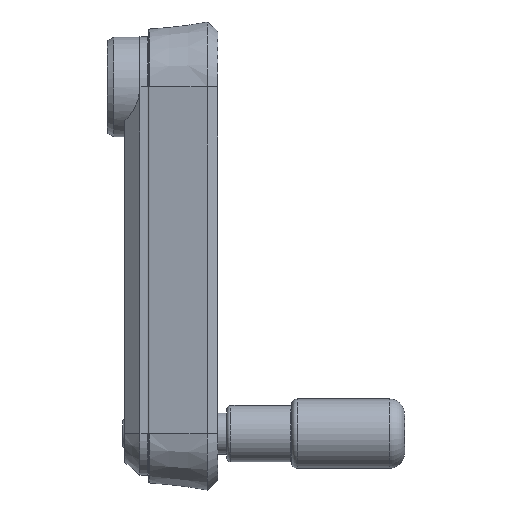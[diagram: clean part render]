
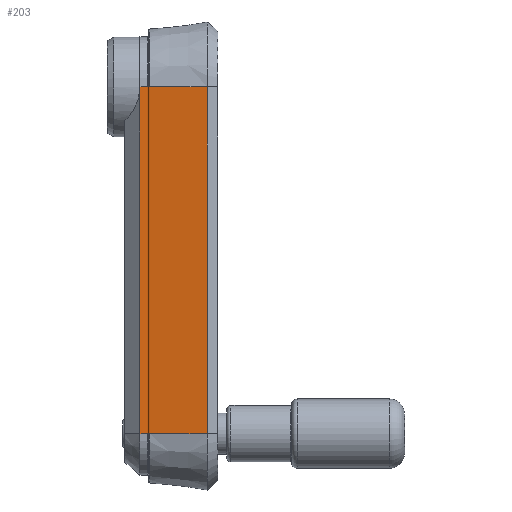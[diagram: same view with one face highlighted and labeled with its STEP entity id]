
A CAD part, top view. The second image highlights one B-rep face of the part: STEP entity #203.
In plain terms, the highlighted free-form (B-spline) face has degree [3, 1] with [12, 2] control points.
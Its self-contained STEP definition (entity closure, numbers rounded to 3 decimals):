
#203 = ADVANCED_FACE( '', ( #341 ), #342, .T. );
#341 = FACE_OUTER_BOUND( '', #588, .T. );
#342 = B_SPLINE_SURFACE_WITH_KNOTS( '', 3, 1, ( ( #589, #590 ), ( #591, #592 ), ( #593, #594 ), ( #595, #596 ), ( #597, #598 ), ( #599, #600 ), ( #601, #602 ), ( #603, #604 ), ( #605, #606 ), ( #607, #608 ), ( #609, #610 ), ( #611, #612 ) ), .UNSPECIFIED., .F., .F., .F., ( 4, 2, 2, 2, 2, 4 ), ( 2, 2 ), ( 0., 0.099, 0.127, 0.197, 0.222, 1. ), ( 0., 1. ), .UNSPECIFIED. );
#588 = EDGE_LOOP( '', ( #1005, #1006, #1007, #1008, #1009, #1010, #1011, #1012, #1013, #1014, #1015, #1016 ) );
#589 = CARTESIAN_POINT( '', ( -1.5, -80., 9.565 ) );
#590 = CARTESIAN_POINT( '', ( -1.5, 0., 11.594 ) );
#591 = CARTESIAN_POINT( '', ( -0.933, -80., 9.565 ) );
#592 = CARTESIAN_POINT( '', ( -0.933, 0., 11.594 ) );
#593 = CARTESIAN_POINT( '', ( -0.367, -80., 9.565 ) );
#594 = CARTESIAN_POINT( '', ( -0.367, 0., 11.594 ) );
#595 = CARTESIAN_POINT( '', ( 0.357, -80., 9.565 ) );
#596 = CARTESIAN_POINT( '', ( 0.357, 0., 11.594 ) );
#597 = CARTESIAN_POINT( '', ( 0.5, -80., 9.707 ) );
#598 = CARTESIAN_POINT( '', ( 0.5, 0., 11.738 ) );
#599 = CARTESIAN_POINT( '', ( 0.5, -80., 10.267 ) );
#600 = CARTESIAN_POINT( '', ( 0.5, 0., 12.291 ) );
#601 = CARTESIAN_POINT( '', ( 0.5, -80., 10.676 ) );
#602 = CARTESIAN_POINT( '', ( 0.5, 0., 12.681 ) );
#603 = CARTESIAN_POINT( '', ( 0.5, -80., 11.223 ) );
#604 = CARTESIAN_POINT( '', ( 0.5, 0., 13.222 ) );
#605 = CARTESIAN_POINT( '', ( 0.62, -80., 11.358 ) );
#606 = CARTESIAN_POINT( '', ( 0.62, 0., 13.358 ) );
#607 = CARTESIAN_POINT( '', ( 5.174, -80., 11.917 ) );
#608 = CARTESIAN_POINT( '', ( 5.174, 0., 13.917 ) );
#609 = CARTESIAN_POINT( '', ( 9.585, -80., 12.458 ) );
#610 = CARTESIAN_POINT( '', ( 9.584, 0., 14.458 ) );
#611 = CARTESIAN_POINT( '', ( 13.996, -80., 13. ) );
#612 = CARTESIAN_POINT( '', ( 13.995, 0., 15. ) );
#1005 = ORIENTED_EDGE( '', *, *, #1545, .T. );
#1006 = ORIENTED_EDGE( '', *, *, #1546, .F. );
#1007 = ORIENTED_EDGE( '', *, *, #1547, .F. );
#1008 = ORIENTED_EDGE( '', *, *, #1532, .F. );
#1009 = ORIENTED_EDGE( '', *, *, #1548, .F. );
#1010 = ORIENTED_EDGE( '', *, *, #1528, .F. );
#1011 = ORIENTED_EDGE( '', *, *, #1549, .F. );
#1012 = ORIENTED_EDGE( '', *, *, #1550, .F. );
#1013 = ORIENTED_EDGE( '', *, *, #1551, .F. );
#1014 = ORIENTED_EDGE( '', *, *, #1552, .F. );
#1015 = ORIENTED_EDGE( '', *, *, #1553, .T. );
#1016 = ORIENTED_EDGE( '', *, *, #1554, .F. );
#1528 = EDGE_CURVE( '', #1806, #1809, #1810, .T. );
#1532 = EDGE_CURVE( '', #1814, #1817, #1818, .T. );
#1545 = EDGE_CURVE( '', #1840, #1841, #1842, .T. );
#1546 = EDGE_CURVE( '', #1843, #1841, #1844, .T. );
#1547 = EDGE_CURVE( '', #1817, #1843, #1845, .T. );
#1548 = EDGE_CURVE( '', #1809, #1814, #1846, .T. );
#1549 = EDGE_CURVE( '', #1847, #1806, #1848, .T. );
#1550 = EDGE_CURVE( '', #1849, #1847, #1850, .T. );
#1551 = EDGE_CURVE( '', #1851, #1849, #1852, .T. );
#1552 = EDGE_CURVE( '', #1853, #1851, #1854, .T. );
#1553 = EDGE_CURVE( '', #1853, #1855, #1856, .T. );
#1554 = EDGE_CURVE( '', #1840, #1855, #1857, .T. );
#1806 = VERTEX_POINT( '', #2262 );
#1809 = VERTEX_POINT( '', #2266 );
#1810 = B_SPLINE_CURVE_WITH_KNOTS( '', 3, ( #2267, #2268, #2269, #2270 ), .UNSPECIFIED., .F., .F., ( 4, 4 ), ( 0., 1. ), .UNSPECIFIED. );
#1814 = VERTEX_POINT( '', #2277 );
#1817 = VERTEX_POINT( '', #2280 );
#1818 = B_SPLINE_CURVE_WITH_KNOTS( '', 1, ( #2281, #2282 ), .UNSPECIFIED., .F., .F., ( 2, 2 ), ( 0., 1. ), .UNSPECIFIED. );
#1840 = VERTEX_POINT( '', #2337 );
#1841 = VERTEX_POINT( '', #2338 );
#1842 = B_SPLINE_CURVE_WITH_KNOTS( '', 1, ( #2339, #2340 ), .UNSPECIFIED., .F., .F., ( 2, 2 ), ( 0., 1. ), .UNSPECIFIED. );
#1843 = VERTEX_POINT( '', #2341 );
#1844 = B_SPLINE_CURVE_WITH_KNOTS( '', 3, ( #2342, #2343, #2344, #2345 ), .UNSPECIFIED., .F., .F., ( 4, 4 ), ( 0., 1. ), .UNSPECIFIED. );
#1845 = B_SPLINE_CURVE_WITH_KNOTS( '', 3, ( #2346, #2347, #2348, #2349, #2350, #2351 ), .UNSPECIFIED., .F., .F., ( 4, 2, 4 ), ( 0., 0.5, 1. ), .UNSPECIFIED. );
#1846 = B_SPLINE_CURVE_WITH_KNOTS( '', 3, ( #2352, #2353, #2354, #2355, #2356, #2357 ), .UNSPECIFIED., .F., .F., ( 4, 2, 4 ), ( 0., 0.5, 1. ), .UNSPECIFIED. );
#1847 = VERTEX_POINT( '', #2358 );
#1848 = B_SPLINE_CURVE_WITH_KNOTS( '', 1, ( #2359, #2360 ), .UNSPECIFIED., .F., .F., ( 2, 2 ), ( 0., 1. ), .UNSPECIFIED. );
#1849 = VERTEX_POINT( '', #2361 );
#1850 = B_SPLINE_CURVE_WITH_KNOTS( '', 3, ( #2362, #2363, #2364, #2365 ), .UNSPECIFIED., .F., .F., ( 4, 4 ), ( 0., 1. ), .UNSPECIFIED. );
#1851 = VERTEX_POINT( '', #2366 );
#1852 = B_SPLINE_CURVE_WITH_KNOTS( '', 3, ( #2367, #2368, #2369, #2370, #2371, #2372 ), .UNSPECIFIED., .F., .F., ( 4, 2, 4 ), ( 0., 0.5, 1. ), .UNSPECIFIED. );
#1853 = VERTEX_POINT( '', #2373 );
#1854 = B_SPLINE_CURVE_WITH_KNOTS( '', 1, ( #2374, #2375 ), .UNSPECIFIED., .F., .F., ( 2, 2 ), ( 0., 1. ), .UNSPECIFIED. );
#1855 = VERTEX_POINT( '', #2376 );
#1856 = B_SPLINE_CURVE_WITH_KNOTS( '', 3, ( #2377, #2378, #2379, #2380 ), .UNSPECIFIED., .F., .F., ( 4, 4 ), ( 0.197, 0.222 ), .UNSPECIFIED. );
#1857 = B_SPLINE_CURVE_WITH_KNOTS( '', 3, ( #2381, #2382, #2383, #2384 ), .UNSPECIFIED., .F., .F., ( 4, 4 ), ( 0., 1. ), .UNSPECIFIED. );
#2262 = CARTESIAN_POINT( '', ( -1.5, 0., 11.594 ) );
#2266 = CARTESIAN_POINT( '', ( 0.2, 0., 11.594 ) );
#2267 = CARTESIAN_POINT( '', ( -1.5, 0., 11.594 ) );
#2268 = CARTESIAN_POINT( '', ( -0.933, 0., 11.594 ) );
#2269 = CARTESIAN_POINT( '', ( -0.367, 0., 11.594 ) );
#2270 = CARTESIAN_POINT( '', ( 0.2, 0., 11.594 ) );
#2277 = CARTESIAN_POINT( '', ( 0.5, 0., 11.894 ) );
#2280 = CARTESIAN_POINT( '', ( 0.5, 0., 13.078 ) );
#2281 = CARTESIAN_POINT( '', ( 0.5, 0., 11.894 ) );
#2282 = CARTESIAN_POINT( '', ( 0.5, 0., 13.078 ) );
#2337 = CARTESIAN_POINT( '', ( 13.996, -80., 13. ) );
#2338 = CARTESIAN_POINT( '', ( 13.995, 0., 15. ) );
#2339 = CARTESIAN_POINT( '', ( 13.996, -80., 13. ) );
#2340 = CARTESIAN_POINT( '', ( 13.995, 0., 15. ) );
#2341 = CARTESIAN_POINT( '', ( 0.763, 0., 13.375 ) );
#2342 = CARTESIAN_POINT( '', ( 0.763, 0., 13.375 ) );
#2343 = CARTESIAN_POINT( '', ( 5.174, 0., 13.917 ) );
#2344 = CARTESIAN_POINT( '', ( 9.584, 0., 14.458 ) );
#2345 = CARTESIAN_POINT( '', ( 13.995, 0., 15. ) );
#2346 = CARTESIAN_POINT( '', ( 0.5, 0., 13.078 ) );
#2347 = CARTESIAN_POINT( '', ( 0.5, 0., 13.15 ) );
#2348 = CARTESIAN_POINT( '', ( 0.527, 0., 13.222 ) );
#2349 = CARTESIAN_POINT( '', ( 0.623, 0., 13.331 ) );
#2350 = CARTESIAN_POINT( '', ( 0.692, 0., 13.367 ) );
#2351 = CARTESIAN_POINT( '', ( 0.763, 0., 13.375 ) );
#2352 = CARTESIAN_POINT( '', ( 0.2, 0., 11.594 ) );
#2353 = CARTESIAN_POINT( '', ( 0.279, 0., 11.594 ) );
#2354 = CARTESIAN_POINT( '', ( 0.357, 0., 11.626 ) );
#2355 = CARTESIAN_POINT( '', ( 0.468, 0., 11.737 ) );
#2356 = CARTESIAN_POINT( '', ( 0.5, 0., 11.815 ) );
#2357 = CARTESIAN_POINT( '', ( 0.5, 0., 11.894 ) );
#2358 = CARTESIAN_POINT( '', ( -1.5, -80., 9.565 ) );
#2359 = CARTESIAN_POINT( '', ( -1.5, -80., 9.565 ) );
#2360 = CARTESIAN_POINT( '', ( -1.5, 0., 11.594 ) );
#2361 = CARTESIAN_POINT( '', ( 0.2, -80., 9.565 ) );
#2362 = CARTESIAN_POINT( '', ( 0.2, -80., 9.565 ) );
#2363 = CARTESIAN_POINT( '', ( -0.367, -80., 9.565 ) );
#2364 = CARTESIAN_POINT( '', ( -0.933, -80., 9.565 ) );
#2365 = CARTESIAN_POINT( '', ( -1.5, -80., 9.565 ) );
#2366 = CARTESIAN_POINT( '', ( 0.5, -80., 9.865 ) );
#2367 = CARTESIAN_POINT( '', ( 0.5, -80., 9.865 ) );
#2368 = CARTESIAN_POINT( '', ( 0.5, -80., 9.786 ) );
#2369 = CARTESIAN_POINT( '', ( 0.468, -80., 9.708 ) );
#2370 = CARTESIAN_POINT( '', ( 0.357, -80., 9.597 ) );
#2371 = CARTESIAN_POINT( '', ( 0.279, -80., 9.565 ) );
#2372 = CARTESIAN_POINT( '', ( 0.2, -80., 9.565 ) );
#2373 = CARTESIAN_POINT( '', ( 0.5, -80., 11.077 ) );
#2374 = CARTESIAN_POINT( '', ( 0.5, -80., 11.077 ) );
#2375 = CARTESIAN_POINT( '', ( 0.5, -80., 9.865 ) );
#2376 = CARTESIAN_POINT( '', ( 0.763, -80., 11.375 ) );
#2377 = CARTESIAN_POINT( '', ( 0.5, -80., 11.077 ) );
#2378 = CARTESIAN_POINT( '', ( 0.5, -80., 11.223 ) );
#2379 = CARTESIAN_POINT( '', ( 0.62, -80., 11.358 ) );
#2380 = CARTESIAN_POINT( '', ( 0.763, -80., 11.375 ) );
#2381 = CARTESIAN_POINT( '', ( 13.996, -80., 13. ) );
#2382 = CARTESIAN_POINT( '', ( 9.585, -80., 12.458 ) );
#2383 = CARTESIAN_POINT( '', ( 5.174, -80., 11.917 ) );
#2384 = CARTESIAN_POINT( '', ( 0.763, -80., 11.375 ) );
